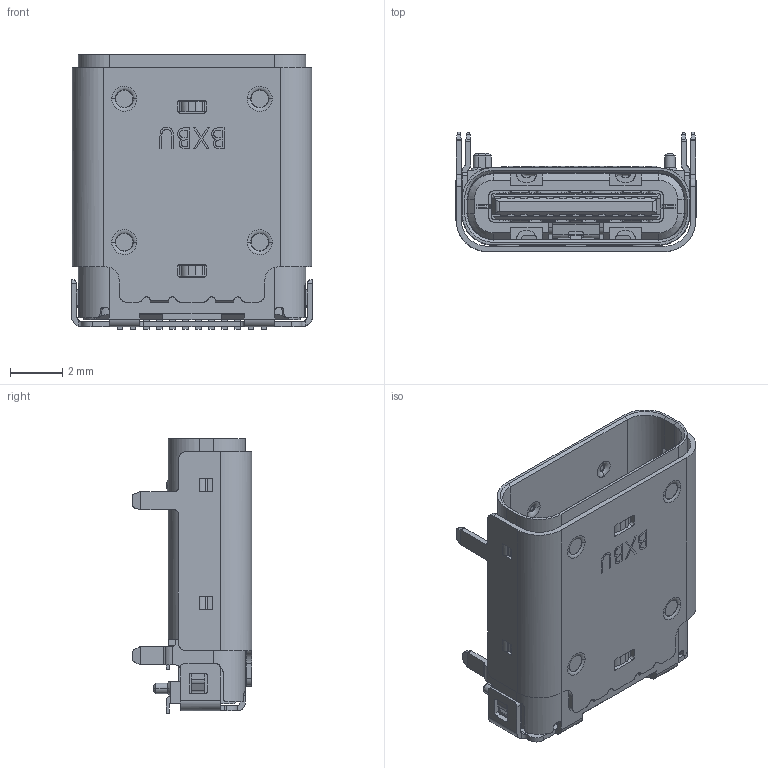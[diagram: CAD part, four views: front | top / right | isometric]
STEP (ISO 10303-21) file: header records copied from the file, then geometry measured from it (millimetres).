
FILE_DESCRIPTION (( 'STEP AP214' ), '1' );
FILE_NAME ('U5388-24PN1.53H10.5L.STEP', '2026-07-31T02:00:17', ( '' ), ( '' ), 'SwSTEP 2.0', 'SolidWorks 2024', '' );
FILE_SCHEMA (( 'AUTOMOTIVE_DESIGN' ));
Length unit declared in the file: millimetre
Products named in the file (14): p1; p1-0; usb-type_c-femlae(2); U5388-24PN1.53H10.5L(2); p6; usb-type_c-femlae_20240228; housing.prt; bt-contact.prt; bt-contact.asm; bt-molding-new.asm; bt-molding.prt; p5; BUSF242B3N31689-USB_TYPE_CF_24P_CH_1.53_L_10.50_双壳DIP_双贴.STEP; U5388-24PN1.53H10.5L
Assembly tree (13 placements, depth 9):
  U5388-24PN1.53H10.5L
    U5388-24PN1.53H10.5L(2)
      BUSF242B3N31689-USB_TYPE_CF_24P_CH_1.53_L_10.50_双壳DIP_双贴.STEP
        usb-type_c-femlae_20240228
          usb-type_c-femlae(2)
            housing.prt
              p1
            bt-molding-new.asm
              bt-contact.asm
                bt-contact.prt
                  p5
                  p6
                  p1-0
              bt-molding.prt
Bounding box: 9.24 x 4.58 x 10.55 mm (x, y, z)
Surface area: 1076.8 mm2
Topology: 4 solids, 8 shells, 2115 faces, 6285 edges, 4084 vertices
Faces by surface type: plane 1460, cylinder 511, torus 76, cone 44, bspline 24
Entity records: 78884 total; most frequent: CARTESIAN_POINT 33189, ORIENTED_EDGE 12460, EDGE_CURVE 6285, B_SPLINE_CURVE_WITH_KNOTS 5692, DIRECTION 4911, VERTEX_POINT 4084, EDGE_LOOP 2212, AXIS2_PLACEMENT_3D 2206
